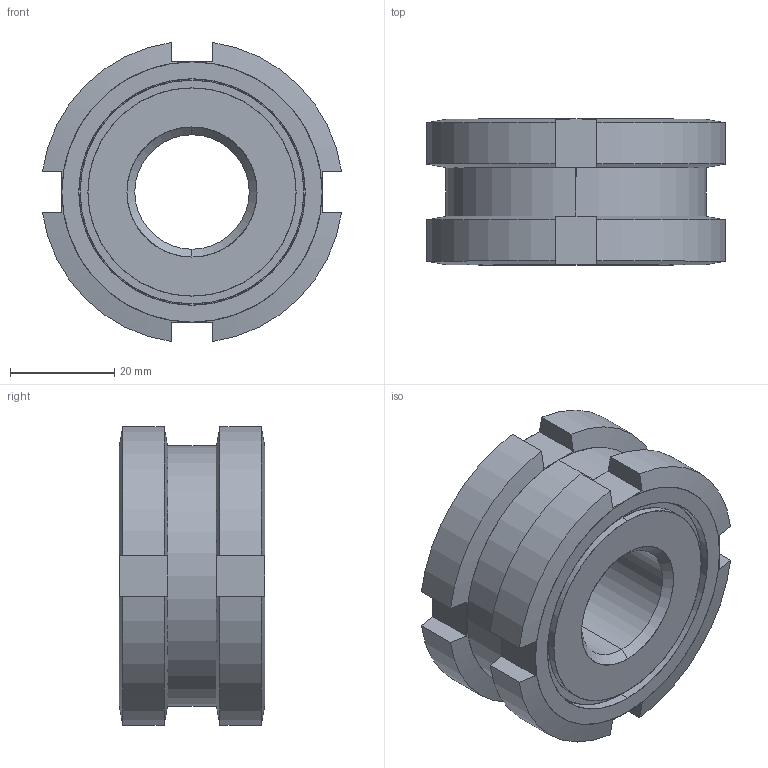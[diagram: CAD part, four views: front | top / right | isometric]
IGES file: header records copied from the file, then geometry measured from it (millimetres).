
Start section: SolidWorks IGES file using analytic representation for surfaces
Global section: file name: C:\Documents and Settings\IanO.IANOHOME\My Documents\Wix and Auto CAD Work\CAD Models\Parametric Models\Wix Models\6200\6200_IGES\6200.W091.igs; native system: SolidWorks 2009; preprocessor: SolidWorks 2009; author: IanO; date: 101017.134337; units: millimetre
Bounding box: 57.45 x 28 x 57.45 mm (x, y, z)
Surface area: 18827.2 mm2 (no closed solid volume)
Topology: 0 solids, 0 shells, 74 faces, 1306 edges, 1306 vertices
Faces by surface type: revolution 42, bspline 32
